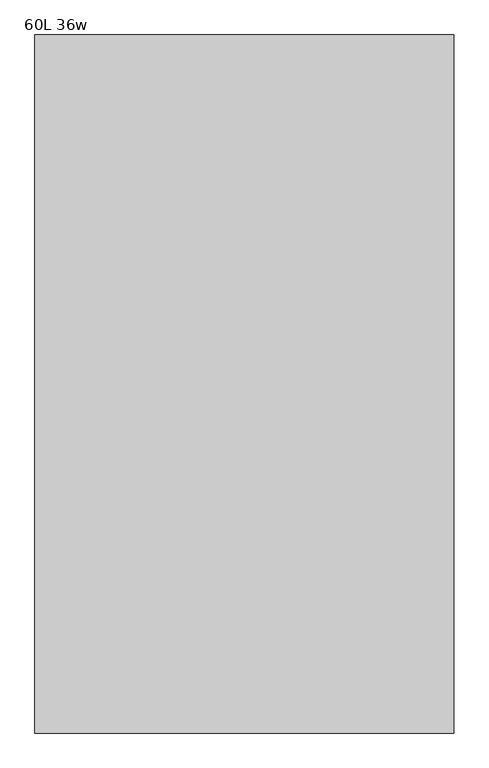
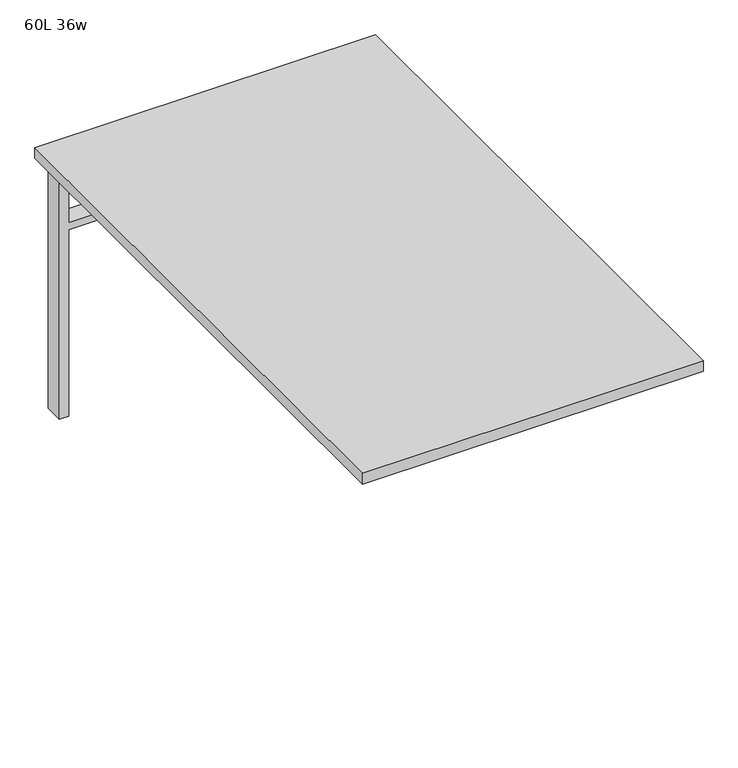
"""IFC4 building model written with IfcOpenShell, lengths in millimetres: furniture geometry, Haworth_Compose_Worksurface_RectangularConvergent : 60L 36w."""

from ifc_helpers import new_model, si_unit, frame, origin, place, context, project, spatial, polyline, outline, extrude, source, transform, mapped, element, save


def furniture_60l_36w_db1131cf(model_context):
    return source(origin(), model_context, "Body", "SweptSolid", [
        extrude(outline(polyline([(-406.4, 701.675), (-406.4, 733.425), (406.4, 733.425), (406.4, 701.675), (-406.4, 701.675)])), frame((0.0, 0.0, 661.9875), z_axis=(0.0, 0.0, 1.0), x_axis=(1.0, 0.0, 0.0)), (0.0, 0.0, 1.0), 44.45),
        extrude(outline(polyline([(528.6375, 406.4), (0.0, 406.4), (0.0, 431.8), (706.4375, 431.8), (706.4375, 406.4), (547.6875, 406.4), (547.6875, -406.4), (706.4375, -406.4), (706.4375, -431.8), (0.0, -431.8), (0.0, -406.4), (528.6375, -406.4), (528.6375, 406.4)])), frame((0.0, 692.15, 0.0), z_axis=(0.0, 1.0, 0.0), x_axis=(0.0, 0.0, 1.0)), (0.0, 0.0, 1.0), 50.8),
        extrude(outline(polyline([(-457.2, 762.0), (457.2, 762.0), (457.2, -762.0), (-457.2, -762.0), (-457.2, 762.0)])), frame((0.0, 0.0, 706.4375), z_axis=(0.0, 0.0, 1.0), x_axis=(1.0, 0.0, 0.0)), (0.0, 0.0, 1.0), 30.1625),
    ])


if __name__ == "__main__":
    model = new_model("IFC4")
    model_context = context("Model", 3, world=origin())
    ifc_project = project(units=[si_unit("LENGTHUNIT", "METRE", prefix="MILLI")], contexts=[model_context])
    site = spatial("IfcSite", under=ifc_project)
    building = spatial("IfcBuilding", under=site)
    placement = place(None, origin())
    furniture_60l_36w_shape = furniture_60l_36w_db1131cf(model_context)
    element("IfcFurniture", 1, ObjectType="Haworth_Compose_Worksurface_RectangularConvergent : 60L 36w", at=placement, inside=building, context=model_context, shape_type="MappedRepresentation", body=[
        mapped(furniture_60l_36w_shape, transform((0.0, 0.0, 0.0), x_axis=(1.0, 0.0, 0.0), y_axis=(0.0, 1.0, 0.0), z_axis=(0.0, 0.0, 1.0))),
    ])
    save(model, "model.ifc")
